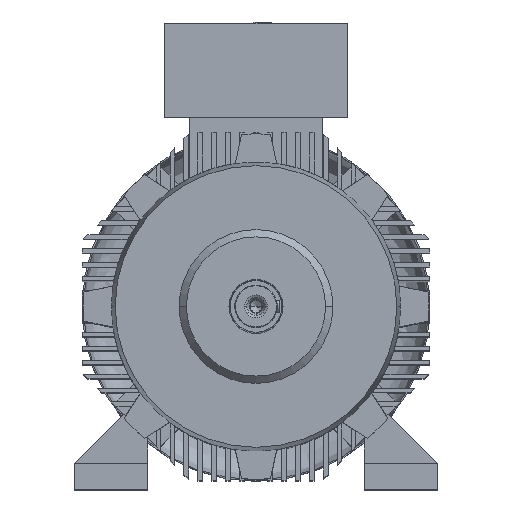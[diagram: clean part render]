
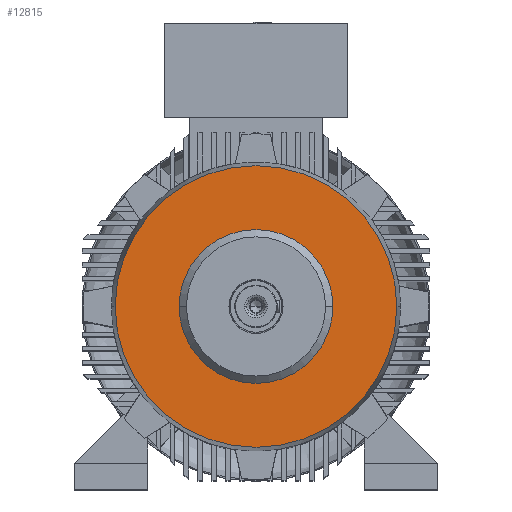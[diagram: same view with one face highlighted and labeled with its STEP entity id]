
A CAD part, top view. The second image highlights one B-rep face of the part: STEP entity #12815.
In plain terms, the highlighted planar face has unit normal (0, 0, 1).
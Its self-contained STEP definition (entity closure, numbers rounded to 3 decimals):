
#731 = DIRECTION ( 'NONE',  ( 0., 0., -1. ) ) ;
#2012 = ORIENTED_EDGE ( 'NONE', *, *, #20757, .T. ) ;
#2634 = CARTESIAN_POINT ( 'NONE',  ( -117.8, 0., 383.3 ) ) ;
#2720 = CIRCLE ( 'NONE', #12357, 215.714 ) ;
#3034 = CARTESIAN_POINT ( 'NONE',  ( 0., 215.714, 383.3 ) ) ;
#3643 = EDGE_CURVE ( 'NONE', #20890, #18196, #16138, .T. ) ;
#3966 = CARTESIAN_POINT ( 'NONE',  ( 117.8, 0., 383.3 ) ) ;
#5371 = DIRECTION ( 'NONE',  ( 0., 0., 1. ) ) ;
#5441 = EDGE_LOOP ( 'NONE', ( #16890, #9822 ) ) ;
#7829 = EDGE_CURVE ( 'NONE', #18196, #20890, #2720, .T. ) ;
#7995 = CIRCLE ( 'NONE', #28678, 117.8 ) ;
#9283 = CARTESIAN_POINT ( 'NONE',  ( 0., 0., 383.3 ) ) ;
#9822 = ORIENTED_EDGE ( 'NONE', *, *, #7829, .T. ) ;
#10266 = VERTEX_POINT ( 'NONE', #2634 ) ;
#10541 = CARTESIAN_POINT ( 'NONE',  ( 0., 0., 383.3 ) ) ;
#10739 = DIRECTION ( 'NONE',  ( 0., 0., 1. ) ) ;
#12151 = DIRECTION ( 'NONE',  ( 1., 0., 0. ) ) ;
#12346 = CARTESIAN_POINT ( 'NONE',  ( 0., 0., 383.3 ) ) ;
#12357 = AXIS2_PLACEMENT_3D ( 'NONE', #10541, #10739, #13089 ) ;
#12516 = AXIS2_PLACEMENT_3D ( 'NONE', #9283, #13847, #27907 ) ;
#12815 = ADVANCED_FACE ( 'NONE', ( #13345, #18466 ), #25949, .F. ) ;
#13089 = DIRECTION ( 'NONE',  ( 1., 0., 0. ) ) ;
#13345 = FACE_BOUND ( 'NONE', #15561, .T. ) ;
#13847 = DIRECTION ( 'NONE',  ( 0., 0., -1. ) ) ;
#15353 = EDGE_CURVE ( 'NONE', #20023, #10266, #19985, .T. ) ;
#15561 = EDGE_LOOP ( 'NONE', ( #17937, #2012 ) ) ;
#16138 = CIRCLE ( 'NONE', #29453, 215.714 ) ;
#16887 = DIRECTION ( 'NONE',  ( 1., 0., 0. ) ) ;
#16890 = ORIENTED_EDGE ( 'NONE', *, *, #3643, .T. ) ;
#17937 = ORIENTED_EDGE ( 'NONE', *, *, #15353, .T. ) ;
#18196 = VERTEX_POINT ( 'NONE', #25158 ) ;
#18466 = FACE_OUTER_BOUND ( 'NONE', #5441, .T. ) ;
#18987 = CARTESIAN_POINT ( 'NONE',  ( 0., 0., 383.3 ) ) ;
#19182 = DIRECTION ( 'NONE',  ( 0., 0., -1. ) ) ;
#19985 = CIRCLE ( 'NONE', #12516, 117.8 ) ;
#20023 = VERTEX_POINT ( 'NONE', #3966 ) ;
#20757 = EDGE_CURVE ( 'NONE', #10266, #20023, #7995, .T. ) ;
#20890 = VERTEX_POINT ( 'NONE', #22019 ) ;
#21181 = AXIS2_PLACEMENT_3D ( 'NONE', #3034, #731, #16887 ) ;
#21530 = DIRECTION ( 'NONE',  ( 1., 0., 0. ) ) ;
#22019 = CARTESIAN_POINT ( 'NONE',  ( 215.714, 0., 383.3 ) ) ;
#25158 = CARTESIAN_POINT ( 'NONE',  ( -215.714, 0., 383.3 ) ) ;
#25949 = PLANE ( 'NONE',  #21181 ) ;
#27907 = DIRECTION ( 'NONE',  ( 1., 0., 0. ) ) ;
#28678 = AXIS2_PLACEMENT_3D ( 'NONE', #12346, #19182, #12151 ) ;
#29453 = AXIS2_PLACEMENT_3D ( 'NONE', #18987, #5371, #21530 ) ;
